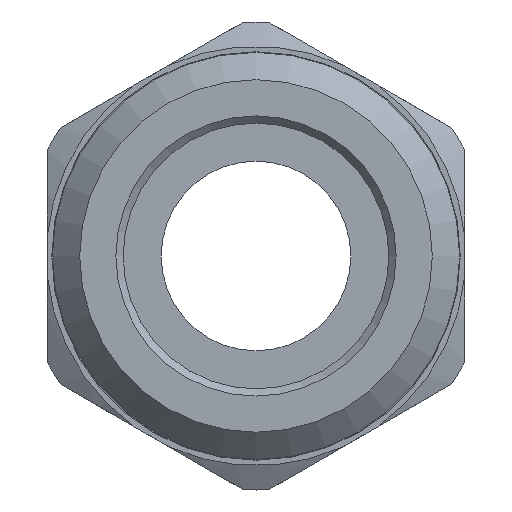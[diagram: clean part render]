
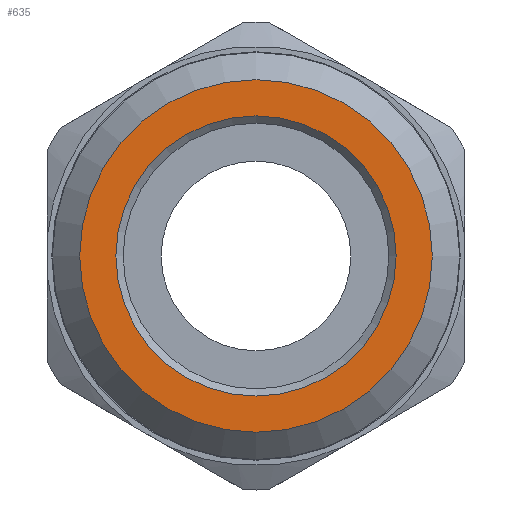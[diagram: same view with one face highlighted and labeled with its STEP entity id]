
A CAD part, front view. The second image highlights one B-rep face of the part: STEP entity #635.
In plain terms, the highlighted planar face has unit normal (0, -1, 0).
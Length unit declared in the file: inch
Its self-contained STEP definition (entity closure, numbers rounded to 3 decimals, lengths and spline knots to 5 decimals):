
#28=FACE_BOUND('',#155,.T.);
#62=CIRCLE('',#714,0.2305);
#63=CIRCLE('',#716,0.29);
#116=FACE_OUTER_BOUND('',#154,.T.);
#154=EDGE_LOOP('',(#526));
#155=EDGE_LOOP('',(#527));
#295=VERTEX_POINT('',#1119);
#296=VERTEX_POINT('',#1123);
#382=EDGE_CURVE('',#295,#295,#62,.T.);
#383=EDGE_CURVE('',#296,#296,#63,.T.);
#526=ORIENTED_EDGE('',*,*,#383,.F.);
#527=ORIENTED_EDGE('',*,*,#382,.F.);
#607=PLANE('',#715);
#635=ADVANCED_FACE('',(#116,#28),#607,.T.);
#714=AXIS2_PLACEMENT_3D('',#1121,#873,#874);
#715=AXIS2_PLACEMENT_3D('',#1122,#875,#876);
#716=AXIS2_PLACEMENT_3D('',#1124,#877,#878);
#873=DIRECTION('center_axis',(0.,-1.,0.));
#874=DIRECTION('ref_axis',(0.,0.,1.));
#875=DIRECTION('center_axis',(0.,-1.,0.));
#876=DIRECTION('ref_axis',(0.,0.,-1.));
#877=DIRECTION('center_axis',(0.,1.,0.));
#878=DIRECTION('ref_axis',(0.,0.,1.));
#1119=CARTESIAN_POINT('',(0.,0.,-0.2305));
#1121=CARTESIAN_POINT('Origin',(0.,0.,0.));
#1122=CARTESIAN_POINT('Origin',(0.,0.,-0.2185));
#1123=CARTESIAN_POINT('',(0.,0.,-0.29));
#1124=CARTESIAN_POINT('Origin',(0.,0.,0.));
